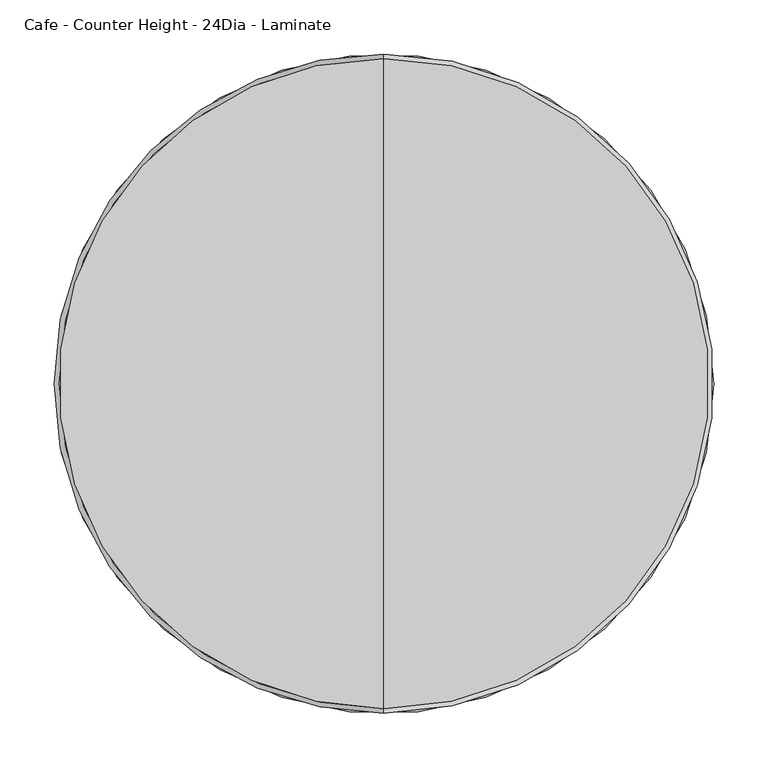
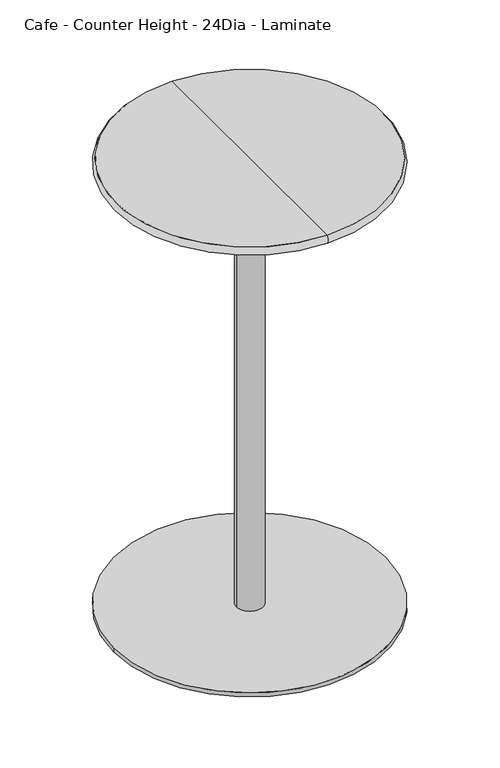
"""IFC4 building model written with IfcOpenShell, lengths in millimetres: furniture geometry, Steelcase Coalesse - Enea - Table - Single Base : Cafe - Counter Height - 24Dia - Laminate."""

from ifc_helpers import new_model, si_unit, point, frame, frame_2d, origin, origin_with_axes, place, context, project, spatial, circle_curve, ellipse_curve, trimmed, segment, composite_curve, outline, extrude, source, transform, mapped, element, save
from ifc_brep_helpers import plane_surface, revolved_surface, advanced_brep


def cafe_counter_height_24dia_laminate_39f304ca(model_context):
    return source(origin(), model_context, "Body", "SolidModel", [
        extrude(outline(composite_curve([segment(trimmed(circle_curve(frame_2d((537.718, -284.0746893)), 25.4), [point((512.318, -284.0746893))], [point((563.118, -284.0746893))], False, "CARTESIAN"), True, "CONTINUOUS"), segment(trimmed(circle_curve(frame_2d((537.718, -284.0746893)), 25.4), [point((563.118, -284.0746893))], [point((512.318, -284.0746893))], False, "CARTESIAN"), True, "CONTINUOUS")], self_intersect=False)), origin_with_axes(), (0.0, 0.0, 1.0), 6.35),
        extrude(outline(composite_curve([segment(trimmed(circle_curve(frame_2d((791.3613107, -537.3772238)), 25.4), [point((765.9613107, -537.3772238))], [point((816.7613107, -537.3772238))], False, "CARTESIAN"), True, "CONTINUOUS"), segment(trimmed(circle_curve(frame_2d((791.3613107, -537.3772238)), 25.4), [point((816.7613107, -537.3772238))], [point((765.9613107, -537.3772238))], False, "CARTESIAN"), True, "CONTINUOUS")], self_intersect=False)), origin_with_axes(), (0.0, 0.0, 1.0), 6.35),
        extrude(outline(composite_curve([segment(trimmed(circle_curve(frame_2d((284.0746893, -537.3772238)), 25.4), [point((258.6746893, -537.3772238))], [point((309.4746893, -537.3772238))], False, "CARTESIAN"), True, "CONTINUOUS"), segment(trimmed(circle_curve(frame_2d((284.0746893, -537.3772238)), 25.4), [point((309.4746893, -537.3772238))], [point((258.6746893, -537.3772238))], False, "CARTESIAN"), True, "CONTINUOUS")], self_intersect=False)), origin_with_axes(), (0.0, 0.0, 1.0), 6.35),
        extrude(outline(composite_curve([segment(trimmed(circle_curve(frame_2d((537.718, -790.6797584)), 25.4), [point((512.318, -790.6797584))], [point((563.118, -790.6797584))], False, "CARTESIAN"), True, "CONTINUOUS"), segment(trimmed(circle_curve(frame_2d((537.718, -790.6797584)), 25.4), [point((563.118, -790.6797584))], [point((512.318, -790.6797584))], False, "CARTESIAN"), True, "CONTINUOUS")], self_intersect=False)), origin_with_axes(), (0.0, 0.0, 1.0), 6.35),
        advanced_brep(
        [(537.718, -838.2075871, 1066.8), (537.718, -237.2284129, 1066.8), (537.718, -537.718, 1066.8), (537.718, -838.2075871, 1047.75), (537.718, -237.2284129, 1047.75), (537.718, -537.718, 1047.75)],
        [
            (0, 1, circle_curve(frame((537.718, -537.718, 1066.8), z_axis=(0.0, 0.0, 1.0), x_axis=(0.0, 1.0, 0.0)), 300.4895871)),
            (1, 2),
            (2, 0),
            (1, 0, circle_curve(frame((537.718, -537.718, 1066.8), z_axis=(0.0, 0.0, 1.0), x_axis=(0.0, 1.0, 0.0)), 300.4895871)),
            (3, 4, circle_curve(frame((537.718, -537.718, 1047.75), z_axis=(0.0, 0.0, 1.0), x_axis=(0.0, 1.0, 0.0)), 300.4895871)),
            (4, 1, circle_curve(frame((537.718, -245.5968446, 1057.275), z_axis=(1.0, 0.0, 0.0), x_axis=(0.0, -1.0, 0.0)), 12.6789697)),
            (0, 3, circle_curve(frame((537.718, -829.8391554, 1057.275), z_axis=(1.0, 0.0, 0.0), x_axis=(0.0, 1.0, 0.0)), 12.6789697)),
            (4, 3, circle_curve(frame((537.718, -537.718, 1047.75), z_axis=(0.0, 0.0, 1.0), x_axis=(0.0, 1.0, 0.0)), 300.4895871)),
            (5, 4),
            (3, 5),
        ],
        [
            plane_surface(frame((537.718, -537.718, 1066.8), z_axis=(0.0, 0.0, 1.0), x_axis=(0.0, 1.0, 0.0))),
            revolved_surface(trimmed(ellipse_curve(frame((537.718, -245.5968446, 1057.275), z_axis=(-1.0, 0.0, 0.0), x_axis=(0.0, -1.0, 0.0)), 12.6789697, 12.6789697), [point((537.718, -237.2284129, 1066.8))], [point((537.718, -237.2284129, 1047.75))], True, "CARTESIAN"), (537.718, -537.718, 1108.3678651), (0.0, 0.0, -1.0)),
            plane_surface(frame((537.718, -537.718, 1047.75), z_axis=(0.0, 0.0, -1.0), x_axis=(0.0, 1.0, 0.0))),
        ],
        [
            (0, [[1, 2, 3]]),
            (0, [[4, -3, -2]]),
            (1, [[5, 6, -1, 7]]),
            (1, [[8, -7, -4, -6]]),
            (2, [[9, -5, 10]]),
            (2, [[-10, -8, -9]]),
        ],
    ),
        extrude(outline(composite_curve([segment(trimmed(circle_curve(frame_2d((537.718, -537.718)), 304.8), [point((842.518, -537.718))], [point((232.918, -537.718))], False, "CARTESIAN"), True, "CONTINUOUS"), segment(trimmed(circle_curve(frame_2d((537.718, -537.718)), 304.8), [point((232.918, -537.718))], [point((842.518, -537.718))], False, "CARTESIAN"), True, "CONTINUOUS")], self_intersect=False)), frame((0.0, 0.0, 6.35), z_axis=(0.0, 0.0, 1.0), x_axis=(1.0, 0.0, 0.0)), (0.0, 0.0, 1.0), 9.525),
        extrude(outline(composite_curve([segment(trimmed(circle_curve(frame_2d((537.7182907, -537.7179273)), 30.0214725), [point((567.7397632, -537.7179273))], [point((507.6968182, -537.7179273))], False, "CARTESIAN"), True, "CONTINUOUS"), segment(trimmed(circle_curve(frame_2d((537.7182907, -537.7179273)), 30.0214725), [point((507.6968182, -537.7179273))], [point((567.7397632, -537.7179273))], False, "CARTESIAN"), True, "CONTINUOUS")], self_intersect=False)), frame((0.0, 0.0, 15.875), z_axis=(0.0, 0.0, 1.0), x_axis=(1.0, 0.0, 0.0)), (0.0, 0.0, 1.0), 1031.875),
    ])


if __name__ == "__main__":
    model = new_model("IFC4")
    model_context = context("Model", 3, world=origin())
    ifc_project = project(units=[si_unit("LENGTHUNIT", "METRE", prefix="MILLI")], contexts=[model_context])
    site = spatial("IfcSite", under=ifc_project)
    building = spatial("IfcBuilding", under=site)
    placement = place(None, origin())
    cafe_counter_height_24dia_laminate_shape = cafe_counter_height_24dia_laminate_39f304ca(model_context)
    element("IfcFurniture", 1, ObjectType="Steelcase Coalesse - Enea - Table - Single Base : Cafe - Counter Height - 24Dia - Laminate", at=placement, inside=building, context=model_context, shape_type="MappedRepresentation", body=[
        mapped(cafe_counter_height_24dia_laminate_shape, transform((0.0, 0.0, 0.0), x_axis=(1.0, 0.0, 0.0), y_axis=(0.0, 1.0, 0.0), z_axis=(0.0, 0.0, 1.0))),
    ])
    save(model, "model.ifc")
